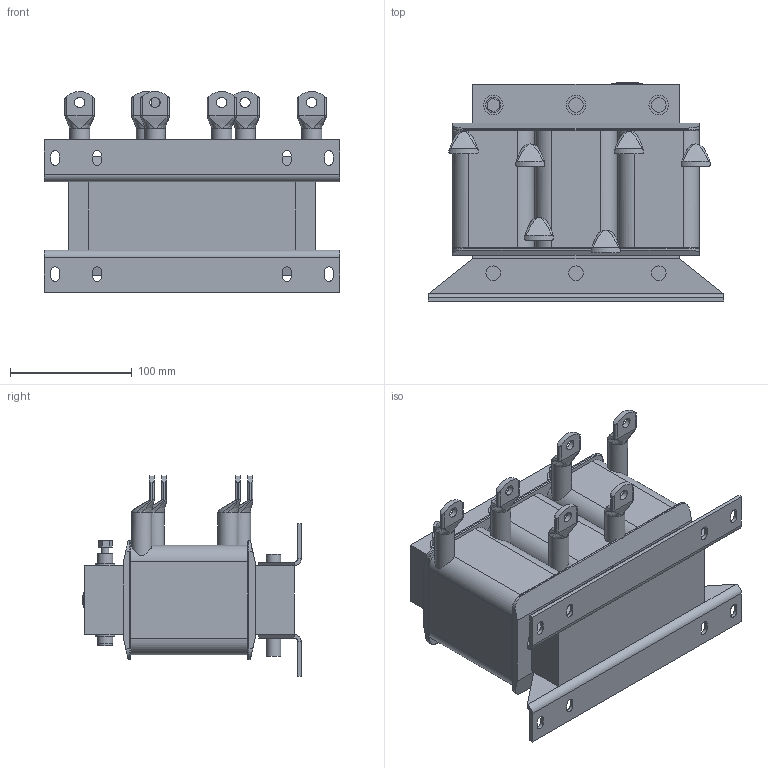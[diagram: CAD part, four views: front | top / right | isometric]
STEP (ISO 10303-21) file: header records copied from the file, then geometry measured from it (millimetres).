
FILE_DESCRIPTION (( 'STEP AP214' ), '1' );
FILE_NAME ('20Z1B03-1000.STEP', '2022-04-12T14:08:21', ( '' ), ( '' ), 'SwSTEP 2.0', 'SolidWorks 2019', '' );
FILE_SCHEMA (( 'AUTOMOTIVE_DESIGN' ));
Length unit declared in the file: millimetre
Products named in the file (1): 20Z1B03-1000
Bounding box: 243 x 179.72 x 164.95 mm (x, y, z)
Volume: 2680175.3 mm3; surface area: 226066.1 mm2
Topology: 1 solids, 1 shells, 362 faces, 930 edges, 590 vertices
Faces by surface type: plane 172, cylinder 121, bspline 61, torus 8
Full cylindrical faces by diameter (mm): 6 x1, 8.4 x6, 12 x10, 12.5 x2, 16 x6, 16.5 x6
Entity records: 15082 total; most frequent: CARTESIAN_POINT 6740, ORIENTED_EDGE 1774, DIRECTION 1422, EDGE_CURVE 887, VERTEX_POINT 578, AXIS2_PLACEMENT_3D 502, EDGE_LOOP 449, VECTOR 418
